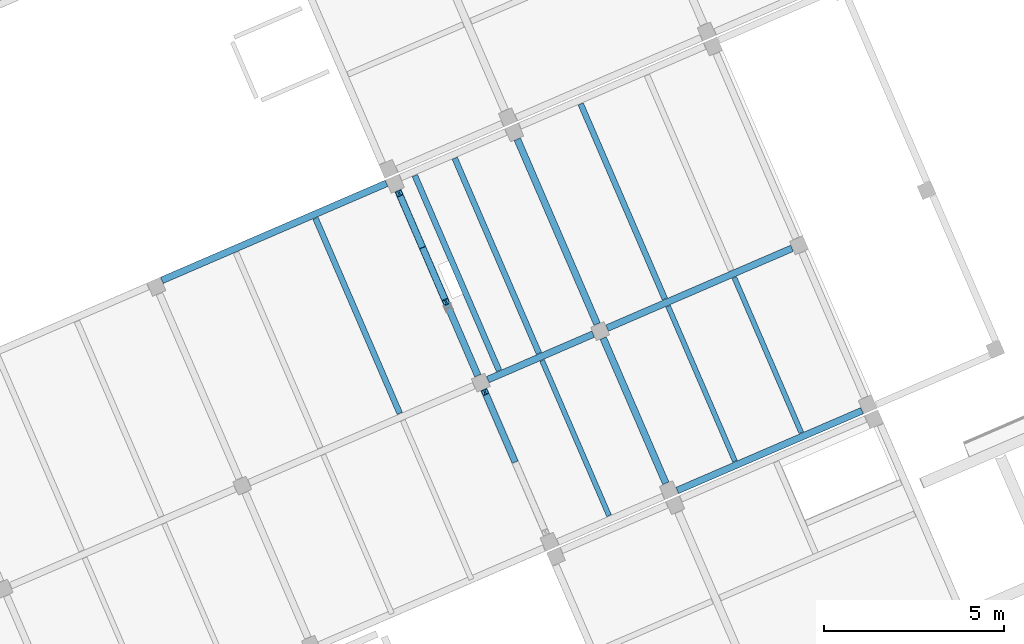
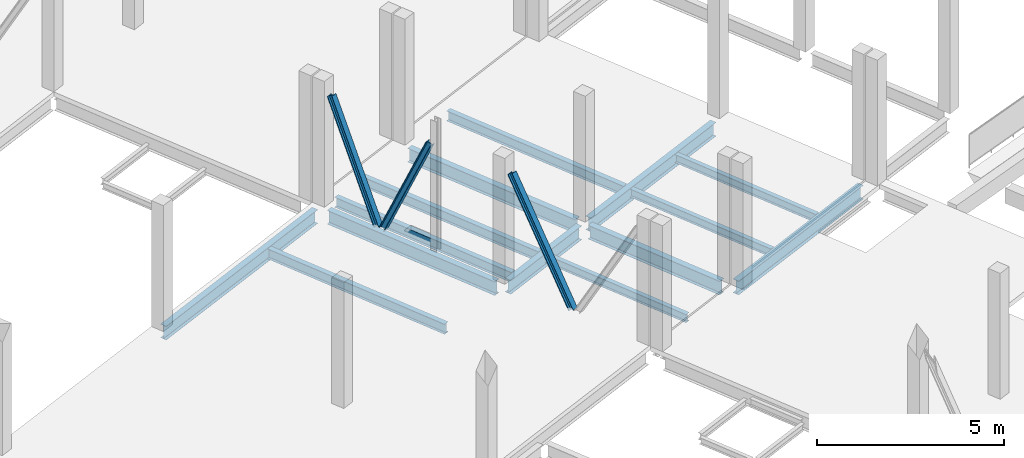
# One storey, part 17 of 24: 14 beams, 3 members.
"""IFC4 building model written with IfcOpenShell, lengths in metres."""

from ifc_helpers import new_model, entity, si_unit, converted_unit, derived_unit, direction, frame, origin, place, context, subcontext, project, spatial, line, arc, indexed_curve, outline, extrude, source, transform, mapped, material, type_object, type_shapes, element, save


model = new_model("IFC4")

# Units and contexts
model_context = context("Model", 3, precision=1e-05, world=origin(), true_north=direction((6.12323399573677e-17, 1.0)))
body_context = subcontext(model_context, "Body", "Model", "MODEL_VIEW")
ifc_project = project(units=[si_unit("LENGTHUNIT", "METRE"), si_unit("AREAUNIT", "SQUARE_METRE"), si_unit("VOLUMEUNIT", "CUBIC_METRE"), converted_unit("PLANEANGLEUNIT", "DEGREE", entity("IfcPlaneAngleMeasure", 0.0174532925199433), si_unit("PLANEANGLEUNIT", "RADIAN"), dimensions=[0, 0, 0, 0, 0, 0, 0]), si_unit("MASSUNIT", "GRAM", prefix="KILO"), derived_unit("MOMENTOFINERTIAUNIT", [(si_unit("LENGTHUNIT", "METRE"), 4)]), derived_unit("LINEARFORCEUNIT", [(si_unit("MASSUNIT", "GRAM", prefix="KILO"), 1), (si_unit("TIMEUNIT", "SECOND"), -2)]), derived_unit("WARPINGCONSTANTUNIT", [(si_unit("LENGTHUNIT", "METRE"), 6)]), derived_unit("THERMALTRANSMITTANCEUNIT", [(si_unit("MASSUNIT", "GRAM", prefix="KILO"), 1), (si_unit("THERMODYNAMICTEMPERATUREUNIT", "KELVIN"), -1), (si_unit("TIMEUNIT", "SECOND"), -3)]), derived_unit("USERDEFINED", [(si_unit("MASSUNIT", "GRAM", prefix="KILO"), 1), (si_unit("TIMEUNIT", "SECOND"), -2), (si_unit("THERMODYNAMICTEMPERATUREUNIT", "KELVIN"), -1)]), derived_unit("THERMALRESISTANCEUNIT", [(si_unit("MASSUNIT", "GRAM", prefix="KILO"), -1), (si_unit("TIMEUNIT", "SECOND"), 3), (si_unit("THERMODYNAMICTEMPERATUREUNIT", "KELVIN"), 1)])], contexts=[model_context])

# Site, building, storey
site_placement = place(None, origin())
site = spatial("IfcSite", under=ifc_project, at=site_placement, Name="Default", CompositionType="ELEMENT")
building_placement = place(site_placement, frame((12.6613425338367, -82.5732315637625, 317.15), z_axis=(0.0, 0.0, 1.0), x_axis=(-0.396377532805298, 0.918087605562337, 0.0)))
building = spatial("IfcBuilding", under=site, at=building_placement, Name="CESFAM Coyhaique", CompositionType="ELEMENT")
storey_placement = place(building_placement, frame((0.0, 0.0, 4.20000000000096)))
storey = spatial("IfcBuildingStorey", under=building, at=storey_placement, Name="Nivel 2", CompositionType="ELEMENT", Elevation=4.20000000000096)

# Beams
ifc_material = material(Name="Steel, 45-345", Category="Metal")
beam_type_1 = type_object("IfcBeamType", Name="M_W Shapes:W450X190mm", PredefinedType="BEAM", material=ifc_material)
shared_shape_1 = source(origin(), body_context, "Body", "SweptSolid", [
    extrude(outline(indexed_curve([(-0.0950000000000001, -0.225000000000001), (0.0950000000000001, -0.225000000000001), (0.0950000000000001, -0.21535), (0.0105699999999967, -0.21535), (0.00516063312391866, -0.213109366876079), (0.00291999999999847, -0.2077), (0.00291999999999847, 0.207699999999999), (0.00516063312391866, 0.213109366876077), (0.0105700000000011, 0.21535), (0.0950000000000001, 0.21535), (0.0950000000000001, 0.224999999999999), (-0.0950000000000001, 0.224999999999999), (-0.0950000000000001, 0.21535), (-0.0105700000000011, 0.215349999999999), (-0.00516063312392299, 0.213109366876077), (-0.0029200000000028, 0.207699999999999), (-0.0029200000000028, -0.2077), (-0.00516063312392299, -0.213109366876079), (-0.0105700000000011, -0.21535), (-0.0950000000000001, -0.21535)], segments=[line(1, 2, 3, 4), arc(4, 5, 6), line(6, 7), arc(7, 8, 9), line(9, 10, 11, 12, 13, 14), arc(14, 15, 16), line(16, 17), arc(17, 18, 19), line(19, 20, 1)], self_intersect=False)), frame((28.7688534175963, -14.9844495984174, 3.82500000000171), z_axis=(0.0, 1.0, 0.0), x_axis=(-1.0, 0.0, 0.0)), (0.0, 0.0, 1.0), 3.1746),
])
type_shapes(beam_type_1, [shared_shape_1])
beam_1_placement = place(storey_placement, frame((0.0, 0.0, -4.20000000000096)))
element("IfcBeam", 1, at=beam_1_placement, inside=storey, type_object=beam_type_1, Name="M_W Shapes:W450X190mm", ObjectType="M_W Shapes:W450X190mm", PredefinedType="BEAM", context=body_context, shape_type="MappedRepresentation", body=[
    mapped(shared_shape_1, transform((0.0, 0.0, 0.0), scale=1.0)),
])
beam_type_2 = type_object("IfcBeamType", Name="M_W Shapes:W450X190mm", PredefinedType="BEAM", material=ifc_material)
shared_shape_2 = source(origin(), body_context, "Body", "SweptSolid", [
    extrude(outline(indexed_curve([(-0.225, -0.0950000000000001), (-0.215350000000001, -0.0950000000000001), (-0.21535, -0.0105699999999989), (-0.213109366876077, -0.00516063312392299), (-0.2077, -0.00291999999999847), (0.207699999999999, -0.00291999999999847), (0.213109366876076, -0.00516063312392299), (0.215349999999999, -0.0105699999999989), (0.215349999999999, -0.0950000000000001), (0.225, -0.0950000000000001), (0.225, 0.0950000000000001), (0.215349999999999, 0.0950000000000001), (0.215349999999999, 0.0105700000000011), (0.213109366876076, 0.00516063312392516), (0.207699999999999, 0.00292000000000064), (-0.2077, 0.00292000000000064), (-0.213109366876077, 0.00516063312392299), (-0.215350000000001, 0.0105700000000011), (-0.215350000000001, 0.0950000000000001), (-0.225, 0.0950000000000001)], segments=[line(1, 2, 3), arc(3, 4, 5), line(5, 6), arc(6, 7, 8), line(8, 9, 10, 11, 12, 13), arc(13, 14, 15), line(15, 16), arc(16, 17, 18), line(18, 19, 20, 1)], self_intersect=False)), frame((28.981553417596, -11.5971495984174, 3.82500000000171), z_axis=(1.0, 0.0, 0.0), x_axis=(0.0, 0.0, -1.0)), (0.0, 0.0, 1.0), 5.5746),
])
type_shapes(beam_type_2, [shared_shape_2])
beam_2_placement = place(storey_placement, frame((0.0, 0.0, -4.20000000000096)))
element("IfcBeam", 2, at=beam_2_placement, inside=storey, type_object=beam_type_2, Name="M_W Shapes:W450X190mm", ObjectType="M_W Shapes:W450X190mm", PredefinedType="BEAM", context=body_context, shape_type="MappedRepresentation", body=[
    mapped(shared_shape_2, transform((0.0, 0.0, 0.0), scale=1.0)),
])
beam_type_3 = type_object("IfcBeamType", Name="M_W Shapes:W450X190mm", PredefinedType="BEAM", material=ifc_material)
shared_shape_3 = source(origin(), body_context, "Body", "SweptSolid", [
    extrude(outline(indexed_curve([(-0.0949999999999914, -0.225000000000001), (0.0950000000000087, -0.225000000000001), (0.0950000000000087, -0.21535), (0.0105700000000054, -0.21535), (0.00516063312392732, -0.213109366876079), (0.00292000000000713, -0.2077), (0.00292000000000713, 0.207699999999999), (0.00516063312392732, 0.213109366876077), (0.0105700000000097, 0.21535), (0.0950000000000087, 0.21535), (0.0950000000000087, 0.224999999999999), (-0.0949999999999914, 0.224999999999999), (-0.0949999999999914, 0.21535), (-0.0105699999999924, 0.215349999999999), (-0.00516063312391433, 0.213109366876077), (-0.00291999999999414, 0.207699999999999), (-0.00291999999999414, -0.2077), (-0.00516063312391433, -0.213109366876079), (-0.0105699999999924, -0.21535), (-0.0949999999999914, -0.21535)], segments=[line(1, 2, 3, 4), arc(4, 5, 6), line(6, 7), arc(7, 8, 9), line(9, 10, 11, 12, 13, 14), arc(14, 15, 16), line(16, 17), arc(17, 18, 19), line(19, 20, 1)], self_intersect=False)), frame((34.8738534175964, -11.384449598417, 3.82500000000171), z_axis=(0.0, 1.0, 0.0), x_axis=(-1.0, 0.0, 0.0)), (0.0, 0.0, 1.0), 6.7746),
])
type_shapes(beam_type_3, [shared_shape_3])
beam_3_placement = place(storey_placement, frame((0.0, 0.0, -4.20000000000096)))
element("IfcBeam", 3, at=beam_3_placement, inside=storey, type_object=beam_type_3, Name="M_W Shapes:W450X190mm", ObjectType="M_W Shapes:W450X190mm", PredefinedType="BEAM", context=body_context, shape_type="MappedRepresentation", body=[
    mapped(shared_shape_3, transform((0.0, 0.0, 0.0), scale=1.0)),
])
beam_type_4 = type_object("IfcBeamType", Name="M_W Shapes:W450X190mm", PredefinedType="BEAM", material=ifc_material)
shared_shape_4 = source(origin(), body_context, "Body", "SweptSolid", [
    extrude(outline(indexed_curve([(-0.225, -0.0950000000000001), (-0.215350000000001, -0.0949999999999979), (-0.21535, -0.0105699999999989), (-0.213109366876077, -0.00516063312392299), (-0.2077, -0.00291999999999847), (0.207699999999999, -0.00291999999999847), (0.213109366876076, -0.00516063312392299), (0.215349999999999, -0.0105699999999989), (0.215349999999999, -0.0950000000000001), (0.225, -0.0950000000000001), (0.225, 0.0950000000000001), (0.215349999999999, 0.0950000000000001), (0.215349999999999, 0.0105700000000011), (0.213109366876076, 0.00516063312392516), (0.207699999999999, 0.00292000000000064), (-0.2077, 0.00292000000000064), (-0.213109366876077, 0.00516063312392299), (-0.215350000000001, 0.0105700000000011), (-0.215350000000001, 0.0950000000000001), (-0.225, 0.0950000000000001)], segments=[line(1, 2, 3), arc(3, 4, 5), line(5, 6), arc(6, 7, 8), line(8, 9, 10, 11, 12, 13), arc(13, 14, 15), line(15, 16), arc(16, 17, 18), line(18, 19, 20, 1)], self_intersect=False)), frame((24.1815534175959, -15.1971495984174, 3.82500000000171), z_axis=(1.0, 0.0, 0.0), x_axis=(0.0, 0.0, -1.0)), (0.0, 0.0, 1.0), 4.3746),
])
type_shapes(beam_type_4, [shared_shape_4])
beam_4_placement = place(storey_placement, frame((0.0, 0.0, -4.20000000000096)))
element("IfcBeam", 4, at=beam_4_placement, inside=storey, type_object=beam_type_4, Name="M_W Shapes:W450X190mm", ObjectType="M_W Shapes:W450X190mm", PredefinedType="BEAM", context=body_context, shape_type="MappedRepresentation", body=[
    mapped(shared_shape_4, transform((0.0, 0.0, 0.0), scale=1.0)),
])
beam_type_5 = type_object("IfcBeamType", Name="M_W Shapes:W450X190mm", PredefinedType="BEAM", material=ifc_material)
shared_shape_5 = source(origin(), body_context, "Body", "SweptSolid", [
    extrude(outline(indexed_curve([(-0.0950000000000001, -0.225000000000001), (0.0950000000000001, -0.225000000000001), (0.0950000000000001, -0.21535), (0.0105699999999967, -0.21535), (0.00516063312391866, -0.213109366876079), (0.00291999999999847, -0.2077), (0.00291999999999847, 0.207699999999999), (0.00516063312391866, 0.213109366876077), (0.0105699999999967, 0.21535), (0.0950000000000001, 0.21535), (0.0950000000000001, 0.224999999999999), (-0.0950000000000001, 0.224999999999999), (-0.0950000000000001, 0.21535), (-0.0105700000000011, 0.215349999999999), (-0.00516063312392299, 0.213109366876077), (-0.0029200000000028, 0.207699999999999), (-0.0029200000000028, -0.2077), (-0.00516063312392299, -0.213109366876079), (-0.0105700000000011, -0.21535), (-0.0950000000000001, -0.21535)], segments=[line(1, 2, 3, 4), arc(4, 5, 6), line(6, 7), arc(7, 8, 9), line(9, 10, 11, 12, 13, 14), arc(14, 15, 16), line(16, 17), arc(17, 18, 19), line(19, 20, 1)], self_intersect=False)), frame((23.8688534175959, -20.9844495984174, 3.82500000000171), z_axis=(0.0, 1.0, 0.0), x_axis=(-1.0, 0.0, 0.0)), (0.0, 0.0, 1.0), 5.5746),
])
type_shapes(beam_type_5, [shared_shape_5])
beam_5_placement = place(storey_placement, frame((0.0, 0.0, -4.20000000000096)))
element("IfcBeam", 5, at=beam_5_placement, inside=storey, type_object=beam_type_5, Name="M_W Shapes:W450X190mm", ObjectType="M_W Shapes:W450X190mm", PredefinedType="BEAM", context=body_context, shape_type="MappedRepresentation", body=[
    mapped(shared_shape_5, transform((0.0, 0.0, 0.0), scale=1.0)),
])
beam_type_6 = type_object("IfcBeamType", Name="M_W Shapes:W450X190mm", PredefinedType="BEAM", material=ifc_material)
shared_shape_6 = source(origin(), body_context, "Body", "SweptSolid", [
    extrude(outline(indexed_curve([(-0.0949999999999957, -0.225000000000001), (0.0950000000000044, -0.225000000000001), (0.0950000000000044, -0.21535), (0.0105700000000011, -0.21535), (0.00516063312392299, -0.213109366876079), (0.0029200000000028, -0.2077), (0.0029200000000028, 0.207699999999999), (0.00516063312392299, 0.213109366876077), (0.0105700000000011, 0.21535), (0.0950000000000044, 0.21535), (0.0950000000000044, 0.224999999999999), (-0.0949999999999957, 0.224999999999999), (-0.0949999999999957, 0.21535), (-0.0105699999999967, 0.215349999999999), (-0.00516063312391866, 0.213109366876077), (-0.00291999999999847, 0.207699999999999), (-0.00291999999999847, -0.2077), (-0.00516063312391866, -0.213109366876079), (-0.0105699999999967, -0.21535), (-0.0949999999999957, -0.21535)], segments=[line(1, 2, 3, 4), arc(4, 5, 6), line(6, 7), arc(7, 8, 9), line(9, 10, 11, 12, 13, 14), arc(14, 15, 16), line(16, 17), arc(17, 18, 19), line(19, 20, 1)], self_intersect=False)), frame((28.7688534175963, -20.9844495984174, 3.82500000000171), z_axis=(0.0, 1.0, 0.0), x_axis=(-1.0, 0.0, 0.0)), (0.0, 0.0, 1.0), 5.5746),
])
type_shapes(beam_type_6, [shared_shape_6])
beam_6_placement = place(storey_placement, frame((0.0, 0.0, -4.20000000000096)))
element("IfcBeam", 6, at=beam_6_placement, inside=storey, type_object=beam_type_6, Name="M_W Shapes:W450X190mm", ObjectType="M_W Shapes:W450X190mm", PredefinedType="BEAM", context=body_context, shape_type="MappedRepresentation", body=[
    mapped(shared_shape_6, transform((0.0, 0.0, 0.0), scale=1.0)),
])
beam_type_7 = type_object("IfcBeamType", Name="M_W Shapes:W450X190mm", PredefinedType="BEAM", material=ifc_material)
shared_shape_7 = source(origin(), body_context, "Body", "SweptSolid", [
    extrude(outline(indexed_curve([(-0.225, -0.0949999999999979), (-0.215350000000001, -0.0949999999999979), (-0.21535, -0.0105699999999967), (-0.213109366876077, -0.00516063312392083), (-0.2077, -0.0029199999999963), (0.207699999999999, -0.0029199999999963), (0.213109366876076, -0.00516063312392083), (0.215349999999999, -0.0105699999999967), (0.215349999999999, -0.0949999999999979), (0.225, -0.0949999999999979), (0.225, 0.0950000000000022), (0.215349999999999, 0.0950000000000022), (0.215349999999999, 0.0105700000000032), (0.213109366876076, 0.00516063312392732), (0.207699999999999, 0.0029200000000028), (-0.2077, 0.0029200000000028), (-0.213109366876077, 0.00516063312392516), (-0.215350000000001, 0.0105700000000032), (-0.215350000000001, 0.0950000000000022), (-0.225, 0.0950000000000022)], segments=[line(1, 2, 3), arc(3, 4, 5), line(5, 6), arc(6, 7, 8), line(8, 9, 10, 11, 12, 13), arc(13, 14, 15), line(15, 16), arc(16, 17, 18), line(18, 19, 20, 1)], self_intersect=False)), frame((28.981553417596, -15.1971495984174, 3.82500000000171), z_axis=(1.0, 0.0, 0.0), x_axis=(0.0, 0.0, -1.0)), (0.0, 0.0, 1.0), 5.5746),
])
type_shapes(beam_type_7, [shared_shape_7])
beam_7_placement = place(storey_placement, frame((0.0, 0.0, -4.20000000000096)))
element("IfcBeam", 7, at=beam_7_placement, inside=storey, type_object=beam_type_7, Name="M_W Shapes:W450X190mm", ObjectType="M_W Shapes:W450X190mm", PredefinedType="BEAM", context=body_context, shape_type="MappedRepresentation", body=[
    mapped(shared_shape_7, transform((0.0, 0.0, 0.0), scale=1.0)),
])

# Members
member_type_1 = type_object("IfcMemberType", Name="M_Double C-Channel:doble T HEB 180", PredefinedType="BRACE", material=ifc_material)
shared_shape_8 = source(origin(), body_context, "Body", "SweptSolid", [
    extrude(outline(indexed_curve([(-0.0899999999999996, -0.045425), (0.0900000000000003, -0.045425), (0.0900000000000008, 0.044575), (0.078332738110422, 0.0397422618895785), (0.0734999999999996, 0.028075), (0.0647413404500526, -0.0272249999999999), (-0.0647413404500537, -0.0272249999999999), (-0.0735000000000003, 0.0280749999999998), (-0.0783327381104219, 0.0397422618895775), (-0.0899999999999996, 0.0445749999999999)], segments=[line(1, 2, 3), arc(3, 4, 5), line(5, 6, 7, 8), arc(8, 9, 10), line(10, 1)], self_intersect=False)), frame((-2.42771492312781, 0.0454249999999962, 0.0), z_axis=(1.0, 0.0, 0.0), x_axis=(0.0, 0.0, -1.0)), (0.0, 0.0, 1.0), 4.1299440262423),
    extrude(outline(indexed_curve([(-0.045425, -0.0899999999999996), (0.0445749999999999, -0.0899999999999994), (0.0397422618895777, -0.078332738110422), (0.0280749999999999, -0.0735000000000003), (-0.0272249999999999, -0.0647413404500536), (-0.0272249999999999, 0.0647413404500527), (0.0280749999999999, 0.0734999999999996), (0.0397422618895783, 0.0783327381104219), (0.044575, 0.0900000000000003), (-0.045425, 0.0900000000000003)], segments=[line(1, 2), arc(2, 3, 4), line(4, 5, 6, 7), arc(7, 8, 9), line(9, 10, 1)], self_intersect=False)), frame((-2.42771492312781, -0.0454250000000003, 0.0), z_axis=(1.0, 0.0, 0.0), x_axis=(0.0, -1.0, 0.0)), (0.0, 0.0, 1.0), 4.1299440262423),
])
type_shapes(member_type_1, [shared_shape_8])
member_1_placement = place(storey_placement, frame((27.6472212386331, -11.5971495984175, 2.0807452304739), z_axis=(-0.870753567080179, 0.0, 0.491719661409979), x_axis=(0.491719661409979, 0.0, 0.870753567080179)))
element("IfcMember", 8, at=member_1_placement, inside=storey, type_object=member_type_1, Name="M_Double C-Channel:doble T HEB 180", ObjectType="M_Double C-Channel:doble T HEB 180", PredefinedType="BRACE", context=body_context, shape_type="MappedRepresentation", body=[
    mapped(shared_shape_8, transform((0.0, 0.0, 0.0), scale=1.0)),
])
member_type_2 = type_object("IfcMemberType", Name="M_Double C-Channel:doble T HEB 180", PredefinedType="BRACE", material=ifc_material)
shared_shape_9 = source(origin(), body_context, "Body", "SweptSolid", [
    extrude(outline(indexed_curve([(-0.045425, -0.0899999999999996), (0.0445749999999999, -0.0899999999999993), (0.0397422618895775, -0.0783327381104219), (0.0280749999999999, -0.0735000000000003), (-0.0272249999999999, -0.0647413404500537), (-0.0272249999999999, 0.0647413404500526), (0.0280750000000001, 0.0734999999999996), (0.0397422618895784, 0.078332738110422), (0.044575, 0.0900000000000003), (-0.045425, 0.0900000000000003)], segments=[line(1, 2), arc(2, 3, 4), line(4, 5, 6, 7), arc(7, 8, 9), line(9, 10, 1)], self_intersect=False)), frame((-2.32011616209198, -0.0454249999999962, 0.0), z_axis=(1.0, 0.0, 0.0), x_axis=(0.0, -1.0, 0.0)), (0.0, 0.0, 1.0), 3.7580887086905),
    extrude(outline(indexed_curve([(-0.0899999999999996, -0.045425), (0.0900000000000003, -0.045425), (0.0900000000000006, 0.044575), (0.0783327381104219, 0.0397422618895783), (0.0734999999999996, 0.028075), (0.0647413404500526, -0.0272249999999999), (-0.0647413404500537, -0.0272249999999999), (-0.0735000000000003, 0.0280749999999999), (-0.0783327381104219, 0.0397422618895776), (-0.0899999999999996, 0.0445749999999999)], segments=[line(1, 2, 3), arc(3, 4, 5), line(5, 6, 7, 8), arc(8, 9, 10), line(10, 1)], self_intersect=False)), frame((-2.32011616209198, 0.0454250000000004, 0.0), z_axis=(1.0, 0.0, 0.0), x_axis=(0.0, 0.0, -1.0)), (0.0, 0.0, 1.0), 3.7580887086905),
])
type_shapes(member_type_2, [shared_shape_9])
member_2_placement = place(storey_placement, frame((31.7993709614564, -11.5971495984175, 2.08786676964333), z_axis=(0.910916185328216, 0.0, 0.412591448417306), x_axis=(-0.412591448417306, 0.0, 0.910916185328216)))
element("IfcMember", 9, at=member_2_placement, inside=storey, type_object=member_type_2, Name="M_Double C-Channel:doble T HEB 180", ObjectType="M_Double C-Channel:doble T HEB 180", PredefinedType="BRACE", context=body_context, shape_type="MappedRepresentation", body=[
    mapped(shared_shape_9, transform((0.0, 0.0, 0.0), scale=1.0)),
])
member_type_3 = type_object("IfcMemberType", Name="M_Double C-Channel:doble T HEB 180", PredefinedType="BRACE", material=ifc_material)
shared_shape_10 = source(origin(), body_context, "Body", "SweptSolid", [
    extrude(outline(indexed_curve([(-0.0899999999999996, -0.045425), (0.0900000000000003, -0.045425), (0.0900000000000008, 0.044575), (0.078332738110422, 0.0397422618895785), (0.0734999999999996, 0.028075), (0.0647413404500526, -0.0272249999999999), (-0.0647413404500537, -0.0272249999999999), (-0.0735000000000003, 0.0280749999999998), (-0.0783327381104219, 0.0397422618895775), (-0.0899999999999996, 0.0445749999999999)], segments=[line(1, 2, 3), arc(3, 4, 5), line(5, 6, 7, 8), arc(8, 9, 10), line(10, 1)], self_intersect=False)), frame((-2.29993513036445, 0.0454249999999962, 0.0), z_axis=(1.0, 0.0, 0.0), x_axis=(0.0, 0.0, -1.0)), (0.0, 0.0, 1.0), 3.92725271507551),
    extrude(outline(indexed_curve([(-0.045425, -0.0899999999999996), (0.0445749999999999, -0.0899999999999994), (0.0397422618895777, -0.078332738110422), (0.0280749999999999, -0.0735000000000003), (-0.0272249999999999, -0.0647413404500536), (-0.0272249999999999, 0.0647413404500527), (0.0280749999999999, 0.0734999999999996), (0.0397422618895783, 0.0783327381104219), (0.044575, 0.0900000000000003), (-0.045425, 0.0900000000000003)], segments=[line(1, 2), arc(2, 3, 4), line(4, 5, 6, 7), arc(7, 8, 9), line(9, 10, 1)], self_intersect=False)), frame((-2.29993513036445, -0.0454250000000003, 0.0), z_axis=(1.0, 0.0, 0.0), x_axis=(0.0, -1.0, 0.0)), (0.0, 0.0, 1.0), 3.92725271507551),
])
type_shapes(member_type_3, [shared_shape_10])
member_3_placement = place(storey_placement, frame((33.839051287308, -11.5971495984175, 2.08948856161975), z_axis=(-0.918865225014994, 0.0, 0.3945715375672), x_axis=(0.3945715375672, 0.0, 0.918865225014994)))
element("IfcMember", 10, at=member_3_placement, inside=storey, type_object=member_type_3, Name="M_Double C-Channel:doble T HEB 180", ObjectType="M_Double C-Channel:doble T HEB 180", PredefinedType="BRACE", context=body_context, shape_type="MappedRepresentation", body=[
    mapped(shared_shape_10, transform((0.0, 0.0, 0.0), scale=1.0)),
])

# Beams
beam_type_8 = type_object("IfcBeamType", Name="M_W Shapes:W270X140mm", PredefinedType="BEAM", material=ifc_material)
shared_shape_11 = source(origin(), body_context, "Body", "SweptSolid", [
    extrude(outline(indexed_curve([(-0.135, -0.0700000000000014), (-0.125350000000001, -0.0700000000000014), (-0.125350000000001, -0.0105700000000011), (-0.123109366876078, -0.00516063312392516), (-0.1177, -0.00292000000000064), (0.117699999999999, -0.00292000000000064), (0.123109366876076, -0.00516063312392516), (0.125349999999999, -0.0105700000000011), (0.125349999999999, -0.0700000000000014), (0.135, -0.0700000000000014), (0.135, 0.0699999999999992), (0.125349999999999, 0.0699999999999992), (0.125349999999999, 0.0105699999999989), (0.123109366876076, 0.00516063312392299), (0.117699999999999, 0.00291999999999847), (-0.117700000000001, 0.00291999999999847), (-0.123109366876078, 0.00516063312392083), (-0.125350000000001, 0.0105699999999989), (-0.125350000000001, 0.0699999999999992), (-0.135, 0.0699999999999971)], segments=[line(1, 2, 3), arc(3, 4, 5), line(5, 6), arc(6, 7, 8), line(8, 9, 10, 11, 12, 13), arc(13, 14, 15), line(15, 16), arc(16, 17, 18), line(18, 19, 20, 1)], self_intersect=False)), frame((23.9765534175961, -19.197149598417, 3.91500000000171), z_axis=(1.0, 0.0, 0.0), x_axis=(0.0, 0.0, -1.0)), (0.0, 0.0, 1.0), 4.6846),
])
type_shapes(beam_type_8, [shared_shape_11])
beam_8_placement = place(storey_placement, frame((0.0, 0.0, -4.20000000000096)))
element("IfcBeam", 11, at=beam_8_placement, inside=storey, type_object=beam_type_8, Name="M_W Shapes:W270X140mm", ObjectType="M_W Shapes:W270X140mm", PredefinedType="BEAM", context=body_context, shape_type="MappedRepresentation", body=[
    mapped(shared_shape_11, transform((0.0, 0.0, 0.0), scale=1.0)),
])
beam_type_9 = type_object("IfcBeamType", Name="M_W Shapes:W270X140mm", PredefinedType="BEAM", material=ifc_material)
shared_shape_12 = source(origin(), body_context, "Body", "SweptSolid", [
    extrude(outline(indexed_curve([(-0.135, -0.0699999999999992), (-0.125350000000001, -0.0699999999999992), (-0.125350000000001, -0.0105699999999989), (-0.123109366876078, -0.00516063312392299), (-0.1177, -0.00291999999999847), (0.117699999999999, -0.00291999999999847), (0.123109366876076, -0.00516063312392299), (0.125349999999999, -0.0105699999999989), (0.125349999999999, -0.0699999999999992), (0.135, -0.0699999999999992), (0.135, 0.0700000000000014), (0.125349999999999, 0.0700000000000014), (0.125349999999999, 0.0105700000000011), (0.123109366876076, 0.00516063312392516), (0.117699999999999, 0.00292000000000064), (-0.117700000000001, 0.00292000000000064), (-0.123109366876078, 0.00516063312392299), (-0.125350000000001, 0.0105700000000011), (-0.125350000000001, 0.0700000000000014), (-0.135, 0.0699999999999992)], segments=[line(1, 2, 3), arc(3, 4, 5), line(5, 6), arc(6, 7, 8), line(8, 9, 10, 11, 12, 13), arc(13, 14, 15), line(15, 16), arc(16, 17, 18), line(18, 19, 20, 1)], self_intersect=False)), frame((23.9765534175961, -17.197149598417, 3.91500000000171), z_axis=(1.0, 0.0, 0.0), x_axis=(0.0, 0.0, -1.0)), (0.0, 0.0, 1.0), 4.6846),
])
type_shapes(beam_type_9, [shared_shape_12])
beam_9_placement = place(storey_placement, frame((0.0, 0.0, -4.20000000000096)))
element("IfcBeam", 12, at=beam_9_placement, inside=storey, type_object=beam_type_9, Name="M_W Shapes:W270X140mm", ObjectType="M_W Shapes:W270X140mm", PredefinedType="BEAM", context=body_context, shape_type="MappedRepresentation", body=[
    mapped(shared_shape_12, transform((0.0, 0.0, 0.0), scale=1.0)),
])
beam_type_10 = type_object("IfcBeamType", Name="M_W Shapes:W330X160mm", PredefinedType="BEAM", material=ifc_material)
shared_shape_13 = source(origin(), body_context, "Body", "SweptSolid", [
    extrude(outline(indexed_curve([(-0.164999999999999, -0.0800000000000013), (-0.15535, -0.0800000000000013), (-0.15535, -0.0105700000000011), (-0.153109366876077, -0.00516063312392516), (-0.1477, -0.00292000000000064), (0.1477, -0.00292000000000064), (0.153109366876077, -0.00516063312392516), (0.15535, -0.0105700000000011), (0.15535, -0.0800000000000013), (0.165, -0.0800000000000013), (0.165, 0.0799999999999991), (0.15535, 0.0799999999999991), (0.15535, 0.0105699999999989), (0.153109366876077, 0.00516063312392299), (0.1477, 0.00291999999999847), (-0.1477, 0.00291999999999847), (-0.153109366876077, 0.00516063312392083), (-0.15535, 0.0105699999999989), (-0.15535, 0.0799999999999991), (-0.164999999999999, 0.0799999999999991)], segments=[line(1, 2, 3), arc(3, 4, 5), line(5, 6), arc(6, 7, 8), line(8, 9, 10, 11, 12, 13), arc(13, 14, 15), line(15, 16), arc(16, 17, 18), line(18, 19, 20, 1)], self_intersect=False)), frame((28.8765534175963, -17.197149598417, 3.88500000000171), z_axis=(1.0, 0.0, 0.0), x_axis=(0.0, 0.0, -1.0)), (0.0, 0.0, 1.0), 5.88460000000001),
])
type_shapes(beam_type_10, [shared_shape_13])
beam_10_placement = place(storey_placement, frame((0.0, 0.0, -4.20000000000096)))
element("IfcBeam", 13, at=beam_10_placement, inside=storey, type_object=beam_type_10, Name="M_W Shapes:W330X160mm", ObjectType="M_W Shapes:W330X160mm", PredefinedType="BEAM", context=body_context, shape_type="MappedRepresentation", body=[
    mapped(shared_shape_13, transform((0.0, 0.0, 0.0), scale=1.0)),
])
beam_type_11 = type_object("IfcBeamType", Name="M_W Shapes:W270X140mm", PredefinedType="BEAM", material=ifc_material)
shared_shape_14 = source(origin(), body_context, "Body", "SweptSolid", [
    extrude(outline(indexed_curve([(-0.135, -0.0699999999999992), (-0.125350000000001, -0.0699999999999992), (-0.125350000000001, -0.0105699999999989), (-0.123109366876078, -0.00516063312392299), (-0.1177, -0.00291999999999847), (0.117699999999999, -0.00291999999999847), (0.123109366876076, -0.00516063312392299), (0.125349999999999, -0.0105699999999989), (0.125349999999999, -0.0699999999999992), (0.135, -0.0699999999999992), (0.135, 0.0700000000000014), (0.125349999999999, 0.0700000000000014), (0.125349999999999, 0.0105700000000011), (0.123109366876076, 0.00516063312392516), (0.117699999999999, 0.00292000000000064), (-0.117700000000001, 0.00292000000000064), (-0.123109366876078, 0.00516063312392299), (-0.125350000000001, 0.0105700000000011), (-0.125350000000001, 0.0700000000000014), (-0.135, 0.0699999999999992)], segments=[line(1, 2, 3), arc(3, 4, 5), line(5, 6), arc(6, 7, 8), line(8, 9, 10, 11, 12, 13), arc(13, 14, 15), line(15, 16), arc(16, 17, 18), line(18, 19, 20, 1)], self_intersect=False)), frame((23.9765534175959, -13.3970826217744, 3.91500000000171), z_axis=(1.0, 0.0, 0.0), x_axis=(0.0, 0.0, -1.0)), (0.0, 0.0, 1.0), 4.6846),
])
type_shapes(beam_type_11, [shared_shape_14])
beam_11_placement = place(storey_placement, frame((0.0, 0.0, -4.20000000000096)))
element("IfcBeam", 14, at=beam_11_placement, inside=storey, type_object=beam_type_11, Name="M_W Shapes:W270X140mm", ObjectType="M_W Shapes:W270X140mm", PredefinedType="BEAM", context=body_context, shape_type="MappedRepresentation", body=[
    mapped(shared_shape_14, transform((0.0, 0.0, 0.0), scale=1.0)),
])
beam_type_12 = type_object("IfcBeamType", Name="M_W Shapes:W330X160mm", PredefinedType="BEAM", material=ifc_material)
shared_shape_15 = source(origin(), body_context, "Body", "SweptSolid", [
    extrude(outline(indexed_curve([(-0.164999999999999, -0.0799999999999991), (-0.15535, -0.0799999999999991), (-0.15535, -0.0105699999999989), (-0.153109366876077, -0.00516063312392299), (-0.1477, -0.00291999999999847), (0.1477, -0.00291999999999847), (0.153109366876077, -0.00516063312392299), (0.15535, -0.0105699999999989), (0.15535, -0.0799999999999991), (0.165, -0.0799999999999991), (0.165, 0.0800000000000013), (0.15535, 0.0800000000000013), (0.15535, 0.0105700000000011), (0.153109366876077, 0.00516063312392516), (0.1477, 0.00292000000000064), (-0.1477, 0.00292000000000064), (-0.153109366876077, 0.00516063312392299), (-0.15535, 0.0105700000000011), (-0.15535, 0.0800000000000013), (-0.164999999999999, 0.0800000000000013)], segments=[line(1, 2, 3), arc(3, 4, 5), line(5, 6), arc(6, 7, 8), line(8, 9, 10, 11, 12, 13), arc(13, 14, 15), line(15, 16), arc(16, 17, 18), line(18, 19, 20, 1)], self_intersect=False)), frame((28.8765534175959, -13.3971495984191, 3.88500000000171), z_axis=(1.0, 0.0, 0.0), x_axis=(0.0, 0.0, -1.0)), (0.0, 0.0, 1.0), 5.88460000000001),
])
type_shapes(beam_type_12, [shared_shape_15])
beam_12_placement = place(storey_placement, frame((0.0, 0.0, -4.20000000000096)))
element("IfcBeam", 15, at=beam_12_placement, inside=storey, type_object=beam_type_12, Name="M_W Shapes:W330X160mm", ObjectType="M_W Shapes:W330X160mm", PredefinedType="BEAM", context=body_context, shape_type="MappedRepresentation", body=[
    mapped(shared_shape_15, transform((0.0, 0.0, 0.0), scale=1.0)),
])
beam_type_13 = type_object("IfcBeamType", Name="M_W Shapes:W330X160mm", PredefinedType="BEAM", material=ifc_material)
shared_shape_16 = source(origin(), body_context, "Body", "SweptSolid", [
    extrude(outline(indexed_curve([(-0.164999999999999, -0.079999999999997), (-0.15535, -0.079999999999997), (-0.15535, -0.0105699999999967), (-0.153109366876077, -0.00516063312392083), (-0.1477, -0.0029199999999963), (0.1477, -0.0029199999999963), (0.153109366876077, -0.00516063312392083), (0.15535, -0.0105699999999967), (0.15535, -0.079999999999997), (0.165, -0.079999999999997), (0.165, 0.0800000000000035), (0.15535, 0.0800000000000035), (0.15535, 0.0105700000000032), (0.153109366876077, 0.00516063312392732), (0.1477, 0.0029200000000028), (-0.1477, 0.0029200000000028), (-0.153109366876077, 0.00516063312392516), (-0.15535, 0.0105700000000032), (-0.15535, 0.0800000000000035), (-0.164999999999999, 0.0800000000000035)], segments=[line(1, 2, 3), arc(3, 4, 5), line(5, 6), arc(6, 7, 8), line(8, 9, 10, 11, 12, 13), arc(13, 14, 15), line(15, 16), arc(16, 17, 18), line(18, 19, 20, 1)], self_intersect=False)), frame((28.8765534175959, -12.1926656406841, 3.88500000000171), z_axis=(1.0, 0.0, 0.0), x_axis=(0.0, 0.0, -1.0)), (0.0, 0.0, 1.0), 5.88460000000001),
])
type_shapes(beam_type_13, [shared_shape_16])
beam_13_placement = place(storey_placement, frame((0.0, 0.0, -4.20000000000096)))
element("IfcBeam", 16, at=beam_13_placement, inside=storey, type_object=beam_type_13, Name="M_W Shapes:W330X160mm", ObjectType="M_W Shapes:W330X160mm", PredefinedType="BEAM", context=body_context, shape_type="MappedRepresentation", body=[
    mapped(shared_shape_16, transform((0.0, 0.0, 0.0), scale=1.0)),
])
beam_type_14 = type_object("IfcBeamType", Name="M_W Shapes:W330X160mm", PredefinedType="BEAM", material=ifc_material)
shared_shape_17 = source(origin(), body_context, "Body", "SweptSolid", [
    extrude(outline(indexed_curve([(-0.164999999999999, -0.0800000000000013), (-0.15535, -0.0800000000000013), (-0.15535, -0.0105700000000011), (-0.153109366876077, -0.00516063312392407), (-0.1477, -0.00292000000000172), (0.1477, -0.00292000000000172), (0.153109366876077, -0.00516063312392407), (0.15535, -0.0105700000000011), (0.15535, -0.0800000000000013), (0.165, -0.0800000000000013), (0.165000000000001, 0.0799999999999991), (0.15535, 0.0799999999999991), (0.15535, 0.0105699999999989), (0.153109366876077, 0.00516063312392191), (0.1477, 0.00291999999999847), (-0.1477, 0.00291999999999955), (-0.153109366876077, 0.00516063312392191), (-0.15535, 0.0105699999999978), (-0.15535, 0.0799999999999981), (-0.164999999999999, 0.0799999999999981)], segments=[line(1, 2, 3), arc(3, 4, 5), line(5, 6), arc(6, 7, 8), line(8, 9, 10, 11, 12, 13), arc(13, 14, 15), line(15, 16), arc(16, 17, 18), line(18, 19, 20, 1)], self_intersect=False)), frame((28.8765534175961, -9.19714959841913, 3.88500000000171), z_axis=(1.0, 0.0, 0.0), x_axis=(0.0, 0.0, -1.0)), (0.0, 0.0, 1.0), 5.8896),
])
type_shapes(beam_type_14, [shared_shape_17])
beam_14_placement = place(storey_placement, frame((0.0, 0.0, -4.20000000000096)))
element("IfcBeam", 17, at=beam_14_placement, inside=storey, type_object=beam_type_14, Name="M_W Shapes:W330X160mm", ObjectType="M_W Shapes:W330X160mm", PredefinedType="BEAM", context=body_context, shape_type="MappedRepresentation", body=[
    mapped(shared_shape_17, transform((0.0, 0.0, 0.0), scale=1.0)),
])

save(model, "model.ifc")
